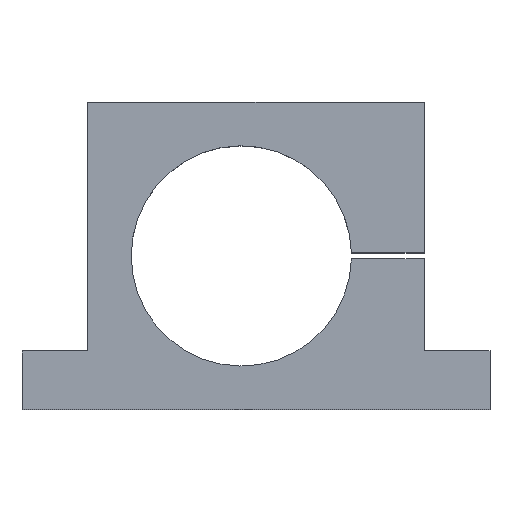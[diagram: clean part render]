
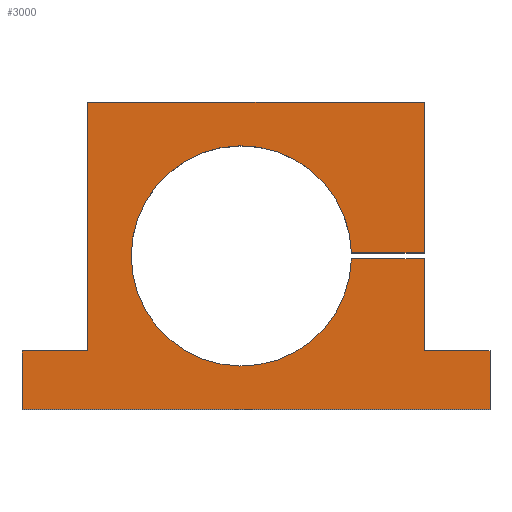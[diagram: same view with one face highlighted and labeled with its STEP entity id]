
A CAD part, top view. The second image highlights one B-rep face of the part: STEP entity #3000.
In plain terms, the highlighted planar face has unit normal (0, 0, 1).
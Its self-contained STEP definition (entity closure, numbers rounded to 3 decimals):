
#40=CIRCLE('',#3128,37.65);
#401=FACE_OUTER_BOUND('',#582,.T.);
#582=EDGE_LOOP('',(#2738,#2739,#2740,#2741,#2742,#2743,#2744,#2745,#2746,
#2747,#2748,#2749));
#836=LINE('',#5209,#1128);
#855=LINE('',#5288,#1147);
#857=LINE('',#5292,#1149);
#860=LINE('',#5300,#1152);
#862=LINE('',#5304,#1154);
#864=LINE('',#5308,#1156);
#866=LINE('',#5312,#1158);
#868=LINE('',#5316,#1160);
#870=LINE('',#5320,#1162);
#872=LINE('',#5324,#1164);
#874=LINE('',#5327,#1166);
#1128=VECTOR('',#3544,10.);
#1147=VECTOR('',#3623,10.);
#1149=VECTOR('',#3627,10.);
#1152=VECTOR('',#3636,10.);
#1154=VECTOR('',#3640,10.);
#1156=VECTOR('',#3644,10.);
#1158=VECTOR('',#3648,10.);
#1160=VECTOR('',#3652,10.);
#1162=VECTOR('',#3656,10.);
#1164=VECTOR('',#3660,10.);
#1166=VECTOR('',#3664,10.);
#1416=VERTEX_POINT('',#5206);
#1417=VERTEX_POINT('',#5208);
#1447=VERTEX_POINT('',#5287);
#1448=VERTEX_POINT('',#5291);
#1449=VERTEX_POINT('',#5295);
#1450=VERTEX_POINT('',#5299);
#1451=VERTEX_POINT('',#5303);
#1452=VERTEX_POINT('',#5307);
#1453=VERTEX_POINT('',#5311);
#1454=VERTEX_POINT('',#5315);
#1455=VERTEX_POINT('',#5319);
#1456=VERTEX_POINT('',#5323);
#1830=EDGE_CURVE('',#1417,#1416,#836,.T.);
#1867=EDGE_CURVE('',#1447,#1417,#855,.T.);
#1869=EDGE_CURVE('',#1448,#1447,#857,.T.);
#1871=EDGE_CURVE('',#1449,#1448,#40,.T.);
#1873=EDGE_CURVE('',#1450,#1449,#860,.T.);
#1875=EDGE_CURVE('',#1451,#1450,#862,.T.);
#1877=EDGE_CURVE('',#1452,#1451,#864,.T.);
#1879=EDGE_CURVE('',#1453,#1452,#866,.T.);
#1881=EDGE_CURVE('',#1454,#1453,#868,.T.);
#1883=EDGE_CURVE('',#1455,#1454,#870,.T.);
#1885=EDGE_CURVE('',#1456,#1455,#872,.T.);
#1887=EDGE_CURVE('',#1416,#1456,#874,.T.);
#2738=ORIENTED_EDGE('',*,*,#1830,.T.);
#2739=ORIENTED_EDGE('',*,*,#1887,.T.);
#2740=ORIENTED_EDGE('',*,*,#1885,.T.);
#2741=ORIENTED_EDGE('',*,*,#1883,.T.);
#2742=ORIENTED_EDGE('',*,*,#1881,.T.);
#2743=ORIENTED_EDGE('',*,*,#1879,.T.);
#2744=ORIENTED_EDGE('',*,*,#1877,.T.);
#2745=ORIENTED_EDGE('',*,*,#1875,.T.);
#2746=ORIENTED_EDGE('',*,*,#1873,.T.);
#2747=ORIENTED_EDGE('',*,*,#1871,.T.);
#2748=ORIENTED_EDGE('',*,*,#1869,.T.);
#2749=ORIENTED_EDGE('',*,*,#1867,.T.);
#2841=PLANE('',#3138);
#3000=ADVANCED_FACE('',(#401),#2841,.T.);
#3128=AXIS2_PLACEMENT_3D('',#5296,#3631,#3632);
#3138=AXIS2_PLACEMENT_3D('',#5329,#3667,#3668);
#3544=DIRECTION('',(-1.,0.,0.));
#3623=DIRECTION('',(0.,1.,0.));
#3627=DIRECTION('',(1.,0.,0.));
#3631=DIRECTION('center_axis',(0.,0.,-1.));
#3632=DIRECTION('ref_axis',(1.,0.027,0.));
#3636=DIRECTION('',(-1.,0.,0.));
#3640=DIRECTION('',(0.,1.,0.));
#3644=DIRECTION('',(-1.,0.,0.));
#3648=DIRECTION('',(0.,1.,0.));
#3652=DIRECTION('',(1.,0.,0.));
#3656=DIRECTION('',(0.,-1.,0.));
#3660=DIRECTION('',(-1.,0.,0.));
#3664=DIRECTION('',(0.,-1.,0.));
#3667=DIRECTION('center_axis',(0.,0.,1.));
#3668=DIRECTION('ref_axis',(1.,0.,0.));
#5206=CARTESIAN_POINT('',(22.5,105.,15.));
#5208=CARTESIAN_POINT('',(137.5,105.,15.));
#5209=CARTESIAN_POINT('',(22.5,105.,15.));
#5287=CARTESIAN_POINT('',(137.5,53.5,15.));
#5288=CARTESIAN_POINT('',(137.5,105.,15.));
#5291=CARTESIAN_POINT('',(112.637,53.5,15.));
#5292=CARTESIAN_POINT('',(137.5,53.5,15.));
#5295=CARTESIAN_POINT('',(112.637,51.5,15.));
#5296=CARTESIAN_POINT('Origin',(75.,52.5,15.));
#5299=CARTESIAN_POINT('',(137.5,51.5,15.));
#5300=CARTESIAN_POINT('',(112.637,51.5,15.));
#5303=CARTESIAN_POINT('',(137.5,20.,15.));
#5304=CARTESIAN_POINT('',(137.5,51.5,15.));
#5307=CARTESIAN_POINT('',(160.,20.,15.));
#5308=CARTESIAN_POINT('',(137.5,20.,15.));
#5311=CARTESIAN_POINT('',(160.,0.,15.));
#5312=CARTESIAN_POINT('',(160.,20.,15.));
#5315=CARTESIAN_POINT('',(0.,0.,15.));
#5316=CARTESIAN_POINT('',(160.,0.,15.));
#5319=CARTESIAN_POINT('',(0.,20.,15.));
#5320=CARTESIAN_POINT('',(0.,0.,15.));
#5323=CARTESIAN_POINT('',(22.5,20.,15.));
#5324=CARTESIAN_POINT('',(0.,20.,15.));
#5327=CARTESIAN_POINT('',(22.5,20.,15.));
#5329=CARTESIAN_POINT('Origin',(81.579,47.425,15.));
